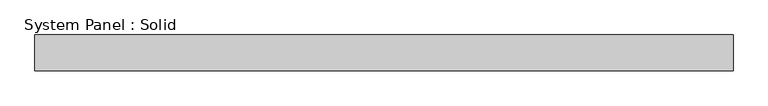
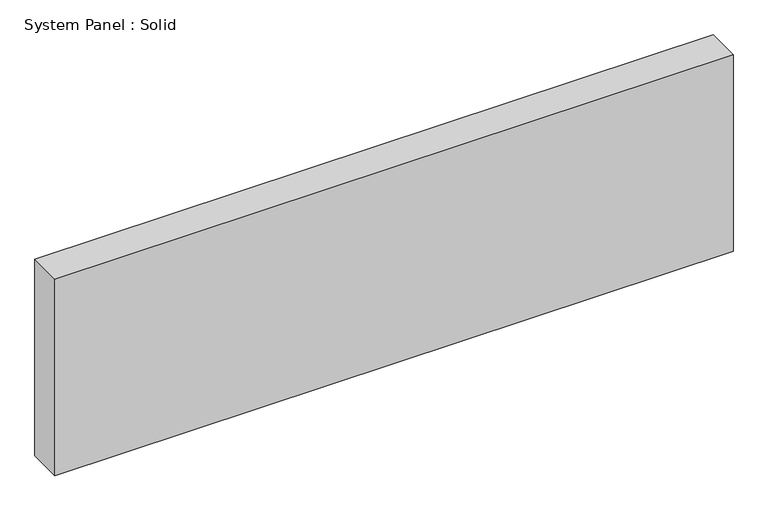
"""IFC4 building model written with IfcOpenShell, lengths in millimetres: plate geometry, System Panel : Solid."""

from ifc_helpers import new_model, si_unit, origin, origin_with_axes, place, context, project, spatial, polyline, outline, extrude, source, transform, mapped, element, save


def system_panel_solid_6e5f63c4(model_context):
    return source(origin(), model_context, "Body", "SweptSolid", [
        extrude(outline(polyline([(619.2304533, -19.05), (-619.2304533, -19.05), (-619.2304533, 44.45), (619.2304533, 44.45), (619.2304533, -19.05)])), origin_with_axes(), (0.0, 0.0, 1.0), 379.1388226),
    ])


if __name__ == "__main__":
    model = new_model("IFC4")
    model_context = context("Model", 3, world=origin())
    ifc_project = project(units=[si_unit("LENGTHUNIT", "METRE", prefix="MILLI")], contexts=[model_context])
    site = spatial("IfcSite", under=ifc_project)
    building = spatial("IfcBuilding", under=site)
    placement = place(None, origin())
    system_panel_solid_shape = system_panel_solid_6e5f63c4(model_context)
    element("IfcPlate", 1, ObjectType="System Panel : Solid", at=placement, inside=building, context=model_context, shape_type="MappedRepresentation", body=[
        mapped(system_panel_solid_shape, transform((0.0, 0.0, 0.0), x_axis=(1.0, 0.0, 0.0), y_axis=(0.0, 1.0, 0.0), z_axis=(0.0, 0.0, 1.0))),
    ])
    save(model, "model.ifc")
